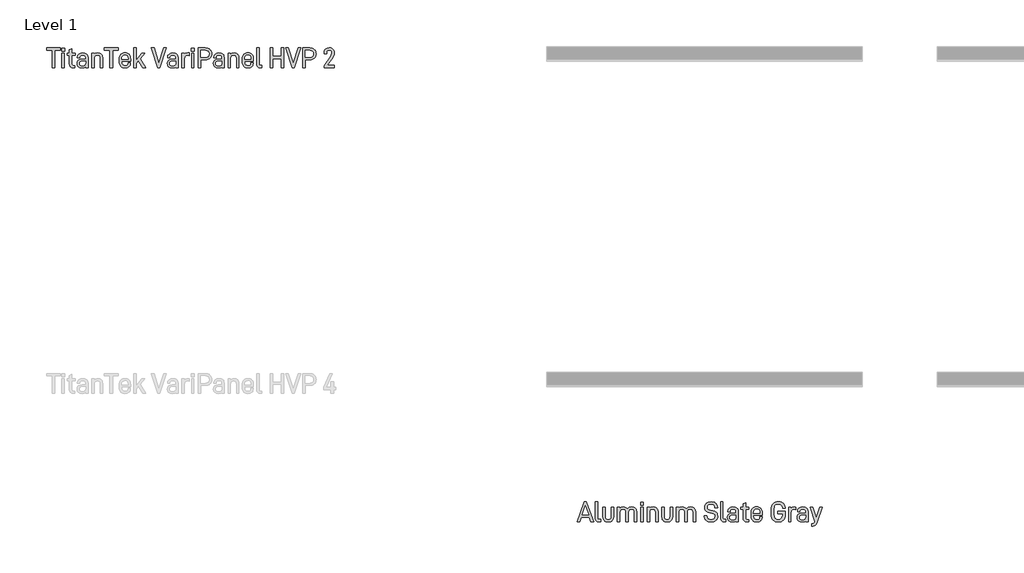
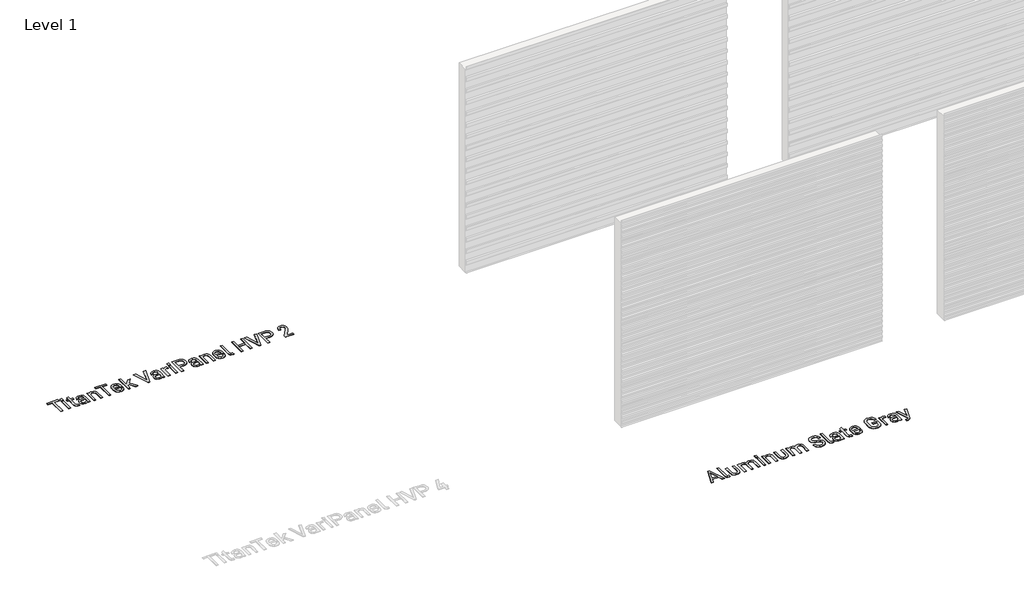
# One storey, part 3 of 33: 2 proxies.
"""IFC4 building model written with IfcOpenShell, lengths in millimetres."""

import ifcopenshell
import ifcopenshell.guid

model = None  # the IFC model being written
_history = None  # IfcOwnerHistory: only IFC2X3 demands one
_inside = {}  # id of a spatial element -> (the spatial element, [elements in it])
_under = {}  # id of a project, library or spatial element -> (it, [spatial elements below it])
_declared = {}  # id of a project -> (the project, [libraries it declares])
_typed = {}  # id of a type object -> (the type object, [elements of that type])
_made_of = {}  # id of a material, layer set ... -> (it, [elements and type objects made of it])


def new_model(schema):
    """Start an empty IFC model of exactly this schema.

    Asked for "IFC4X3", IfcOpenShell would pick the latest addendum, in which some entities
    have other attributes; the version numbers below select the first issue.
    IFC2X3 requires an IfcOwnerHistory on every rooted entity: one is made here for all.
    """
    global model, _history
    if schema == "IFC4X3":
        model = ifcopenshell.file(schema_version=(4, 3, 0, 0))
    else:
        model = ifcopenshell.file(schema=schema)
    _inside.clear()
    _under.clear()
    _declared.clear()
    _typed.clear()
    _made_of.clear()
    _history = None
    if model.schema == "IFC2X3":
        org = make("IfcOrganization", Name="unknown")
        user = make(
            "IfcPersonAndOrganization",
            ThePerson=make("IfcPerson", FamilyName="unknown"),
            TheOrganization=org,
        )
        app = make(
            "IfcApplication",
            ApplicationDeveloper=org,
            Version="unknown",
            ApplicationFullName="unknown",
            ApplicationIdentifier="unknown",
        )
        _history = make(
            "IfcOwnerHistory",
            OwningUser=user,
            OwningApplication=app,
            ChangeAction="ADDED",
            CreationDate=0,
        )
    return model


def make(cls, **values):
    """One entity of the class cls with the attributes given. An attribute that is None is left unset."""
    return model.create_entity(
        cls, **{name: value for name, value in values.items() if value is not None}
    )


def rooted(cls, **values):
    """An entity with a GlobalId (a new one), such as an element, a storey or a relation."""
    return make(cls, GlobalId=ifcopenshell.guid.new(), OwnerHistory=_history, **values)


def si_unit(unit_type, name, prefix=None):
    """IfcSIUnit, for example si_unit("LENGTHUNIT", "METRE", prefix="MILLI")."""
    return make("IfcSIUnit", UnitType=unit_type, Prefix=prefix, Name=name)


def assignment(units):
    """IfcUnitAssignment: the units of a project."""
    return None if units is None else make("IfcUnitAssignment", Units=units)


def point(xyz):
    """IfcCartesianPoint."""
    return None if xyz is None else make("IfcCartesianPoint", Coordinates=xyz)


def direction(xyz):
    """IfcDirection."""
    return None if xyz is None else make("IfcDirection", DirectionRatios=xyz)


def frame(location, z_axis=None, x_axis=None):
    """IfcAxis2Placement3D, a coordinate frame: its origin and axes. An axis left out is left unset."""
    return make(
        "IfcAxis2Placement3D",
        Location=point(location),
        Axis=direction(z_axis),
        RefDirection=direction(x_axis),
    )


def origin():
    """The frame at (0, 0, 0) with its axes left unset."""
    return frame((0.0, 0.0, 0.0))


def origin_with_axes():
    """The frame at (0, 0, 0) with the z axis (0, 0, 1) and the x axis (1, 0, 0) written out."""
    return frame((0.0, 0.0, 0.0), z_axis=(0.0, 0.0, 1.0), x_axis=(1.0, 0.0, 0.0))


def place(relative_to, where):
    """IfcLocalPlacement: puts the frame where relative to a parent placement (None: the world)."""
    return make(
        "IfcLocalPlacement", PlacementRelTo=relative_to, RelativePlacement=where
    )


def context(
    kind, dimensions, precision=None, world=None, true_north=None, identifier=None
):
    """IfcGeometricRepresentationContext, for example the 3D "Model" context."""
    return make(
        "IfcGeometricRepresentationContext",
        ContextIdentifier=identifier,
        ContextType=kind,
        CoordinateSpaceDimension=dimensions,
        Precision=precision,
        WorldCoordinateSystem=world,
        TrueNorth=true_north,
    )


def project(units=None, contexts=None):
    """IfcProject with its units and contexts."""
    return rooted(
        "IfcProject",
        Name="project",
        RepresentationContexts=contexts,
        UnitsInContext=assignment(units),
    )


def spatial(cls, under=None, at=None, **own):
    """A site, building, storey or space (cls), placed at a placement, below another one or the project."""
    s = rooted(cls, ObjectPlacement=at, **own)
    if under is not None:
        _under.setdefault(under.id(), (under, []))[1].append(s)
    return s


def polyline(points):
    """IfcPolyline through the points."""
    return make("IfcPolyline", Points=[point(p) for p in points])


def outline(outer, holes=None, kind="AREA"):
    """IfcArbitraryClosedProfileDef: a profile drawn as a closed curve; with holes, ...WithVoids."""
    if holes is None:
        return make("IfcArbitraryClosedProfileDef", ProfileType=kind, OuterCurve=outer)
    return make(
        "IfcArbitraryProfileDefWithVoids",
        ProfileType=kind,
        OuterCurve=outer,
        InnerCurves=holes,
    )


def extrude(swept, where, along, depth):
    """IfcExtrudedAreaSolid: the profile swept, set in the frame where, extruded along a direction by depth."""
    return make(
        "IfcExtrudedAreaSolid",
        SweptArea=swept,
        Position=where,
        ExtrudedDirection=direction(along),
        Depth=depth,
    )


def shape(context_of_items, identifier, shape_type, items):
    """IfcShapeRepresentation: the items that make up one representation, for example the "Body"."""
    return make(
        "IfcShapeRepresentation",
        ContextOfItems=context_of_items,
        RepresentationIdentifier=identifier,
        RepresentationType=shape_type,
        Items=items,
    )


def made_of(thing, what):
    """Note that an element or type object is made of a material, layer set ...; save() writes the relation."""
    if what is not None:
        _made_of.setdefault(what.id(), (what, []))[1].append(thing)
    return thing


def element(
    cls,
    number,
    at=None,
    inside=None,
    cuts=None,
    type_object=None,
    material=None,
    context=None,
    identifier="Body",
    shape_type=None,
    held_by="IfcProductDefinitionShape",
    body=None,
    shapes=None,
    **own,
):
    """One element of the class cls, such as IfcWall. Its Tag is "e" and its number.

    at: its placement. inside: the storey or other place that contains it. cuts: it is an
    opening in that element (IfcRelVoidsElement). A single representation is given by context,
    identifier, shape_type and body (its items); several are given by shapes. held_by: the class
    of the entity that holds the representations. save() writes the other relations.
    """
    e = rooted(cls, Tag="e%d" % number, ObjectPlacement=at, **own)
    if body is not None:
        shapes = [shape(context, identifier, shape_type, body)]
    if shapes is not None:
        e.Representation = make(held_by, Representations=shapes)
    if inside is not None:
        _inside.setdefault(inside.id(), (inside, []))[1].append(e)
    if cuts is not None:
        rooted(
            "IfcRelVoidsElement", RelatingBuildingElement=cuts, RelatedOpeningElement=e
        )
    if type_object is not None:
        _typed.setdefault(type_object.id(), (type_object, []))[1].append(e)
    return made_of(e, material)


def aggregate(whole, parts):
    """IfcRelAggregates: a whole, such as a stair, and the parts it consists of."""
    return rooted("IfcRelAggregates", RelatingObject=whole, RelatedObjects=parts)


def save(model, path):
    """Write the relations noted so far, then the file.

    IfcRelAggregates (storeys below a building ...), IfcRelContainedInSpatialStructure (elements
    in a storey), IfcRelDefinesByType, IfcRelAssociatesMaterial and IfcRelDeclares: one each for
    every whole, place, type object, material and project.
    """
    for whole, parts in _under.values():
        aggregate(whole, parts)
    for where, things in _inside.values():
        rooted(
            "IfcRelContainedInSpatialStructure",
            RelatedElements=things,
            RelatingStructure=where,
        )
    for kind, things in _typed.values():
        rooted("IfcRelDefinesByType", RelatedObjects=things, RelatingType=kind)
    for what, things in _made_of.values():
        rooted("IfcRelAssociatesMaterial", RelatedObjects=things, RelatingMaterial=what)
    for by, libraries in _declared.values():
        rooted("IfcRelDeclares", RelatingContext=by, RelatedDefinitions=libraries)
    model.write(path)


model = new_model("IFC4")

# Units and contexts
model_context = context("Model", 3, world=origin())
ifc_project = project(units=[si_unit("LENGTHUNIT", "METRE", prefix="MILLI")], contexts=[model_context])

# Site, building, storey
site = spatial("IfcSite", under=ifc_project)
building = spatial("IfcBuilding", under=site)
storey = spatial("IfcBuildingStorey", under=building, Name="Level 1", Elevation=0.0)

# Proxies
placement = place(None, origin())
element("IfcBuildingElementProxy", 1, Name="600mm Arial 2", ObjectType="600mm Arial 2", at=placement, inside=storey, context=model_context, shape_type="SweptSolid", body=[
    extrude(outline(polyline([(-9914.9924556, -12779.5871657), (-9914.9924556, -13047.0126498), (-9954.4439015, -13047.0126498), (-9954.4439015, -12779.5871657), (-10038.8787304, -12779.5871657), (-10038.8787304, -12742.6833224), (-9830.5576267, -12742.6833224), (-9830.5576267, -12779.5871657), (-9914.9924556, -12779.5871657)])), origin_with_axes(), (0.0, 0.0, 1.0), 5.0),
    extrude(outline(polyline([(-9763.1553408, -12746.9778525), (-9763.1553408, -12794.1448949), (-9802.6067867, -12794.1448949), (-9802.6067867, -12746.9778525), (-9763.1553408, -12746.9778525)])), origin_with_axes(), (0.0, 0.0, 1.0), 5.0),
    extrude(outline(polyline([(-9764.0288046, -12821.1494824), (-9764.0288046, -13047.0126498), (-9801.733323, -13047.0126498), (-9801.733323, -12821.1494824), (-9764.0288046, -12821.1494824)])), origin_with_axes(), (0.0, 0.0, 1.0), 5.0),
    extrude(outline(polyline([(-9648.294858, -12987.398749), (-9646.8208879, -12998.4808203), (-9642.3989777, -13006.3965855), (-9635.0291273, -13011.1460446), (-9624.7113368, -13012.7291977), (-9603.2386864, -13012.7291977), (-9603.2386864, -13047.0126498), (-9629.3698101, -13047.0126498), (-9653.1535001, -13043.0456686), (-9671.3688587, -13031.144725), (-9682.6692959, -13012.6018175), (-9686.4361083, -12988.7089446), (-9686.4361083, -12852.8853319), (-9720.2828285, -12852.8853319), (-9720.2828285, -12821.1494824), (-9686.4361083, -12821.1494824), (-9686.4361083, -12773.1089763), (-9648.294858, -12755.1301808), (-9648.294858, -12821.1494824), (-9599.3808881, -12821.1494824), (-9599.3808881, -12852.8853319), (-9648.294858, -12852.8853319), (-9648.294858, -12987.398749)])), origin_with_axes(), (0.0, 0.0, 1.0), 5.0),
    extrude(outline(polyline([(-9422.8684225, -12837.8908709), (-9413.2830677, -12848.6590411), (-9406.4363858, -12861.7473495), (-9400.9590402, -12894.8843804), (-9400.9590402, -13047.0126498), (-9438.2996154, -13047.0126498), (-9438.2996154, -13030.7079931), (-9456.7151427, -13043.1548515), (-9473.7476858, -13047.9589022), (-9493.9829293, -13049.5602524), (-9526.0281305, -13045.2839194), (-9550.1029751, -13032.4549206), (-9565.2248162, -13010.6729184), (-9570.2654299, -12981.4300801), (-9565.1338304, -12953.7885919), (-9549.7390318, -12932.5888988), (-9525.063681, -12919.3777597), (-9493.1094655, -12914.9740466), (-9438.7363472, -12914.9740466), (-9438.7363472, -12894.4476485), (-9441.6296959, -12875.558995), (-9450.3097419, -12861.8383353), (-9464.2305704, -12853.8133871), (-9483.7197302, -12851.1384044), (-9502.2262434, -12853.3948524), (-9515.819523, -12860.1641964), (-9524.1720201, -12870.5183813), (-9526.9561857, -12884.5483927), (-9526.9561857, -12890.1531184), (-9563.8600291, -12890.1531184), (-9563.8600291, -12883.7477176), (-9558.4008807, -12856.7067358), (-9542.0234354, -12835.7072115), (-9516.8203668, -12822.5506638), (-9484.1564621, -12818.1651479), (-9448.6719974, -12823.0965787), (-9434.5600987, -12829.2608671), (-9422.8684225, -12837.8908709)]), holes=[polyline([(-9450.6736851, -13005.4503331), (-9441.7206817, -12990.5468579), (-9438.7363472, -12968.9832216), (-9438.7363472, -12945.0357572), (-9488.8149354, -12945.0357572), (-9507.9538, -12947.2831067), (-9521.6244175, -12954.025155), (-9529.826788, -12965.2619021), (-9532.5609115, -12980.9933482), (-9529.8540837, -12996.9477094), (-9521.7336004, -13008.3436818), (-9508.1994616, -13015.1812652), (-9489.2516673, -13017.4604596), (-9466.104878, -13014.457928), (-9450.6736851, -13005.4503331)])]), origin_with_axes(), (0.0, 0.0, 1.0), 5.0),
    extrude(outline(polyline([(-9306.6977441, -12821.1494824), (-9306.6977441, -12839.5650097), (-9288.2822167, -12826.3174762), (-9271.1222935, -12820.5307789), (-9252.2518372, -12818.6018798), (-9219.9154813, -12824.0610282), (-9206.7907787, -12830.8849637), (-9195.6950595, -12840.4384735), (-9187.0650557, -12852.0209667), (-9180.9007673, -12865.8053165), (-9175.9693365, -12899.9795856), (-9175.9693365, -13047.0126498), (-9213.673855, -13047.0126498), (-9213.673855, -12904.2741157), (-9216.6763866, -12881.8916072), (-9225.6839815, -12866.1328654), (-9240.3781893, -12856.5247642), (-9259.567096, -12853.3220637), (-9278.7378056, -12856.5247642), (-9293.3774219, -12866.1328654), (-9303.0401146, -12882.546705), (-9306.2610122, -12904.2741157), (-9306.2610122, -13047.0126498), (-9343.9655306, -13047.0126498), (-9343.9655306, -12821.1494824), (-9306.6977441, -12821.1494824)])), origin_with_axes(), (0.0, 0.0, 1.0), 5.0),
    extrude(outline(polyline([(-9025.2240514, -12779.5871657), (-9025.2240514, -13047.0126498), (-9064.6754974, -13047.0126498), (-9064.6754974, -12779.5871657), (-9149.1103263, -12779.5871657), (-9149.1103263, -12742.6833224), (-8940.7892225, -12742.6833224), (-8940.7892225, -12779.5871657), (-9025.2240514, -12779.5871657)])), origin_with_axes(), (0.0, 0.0, 1.0), 5.0),
    extrude(outline(polyline([(-8884.5235994, -12952.7513537), (-8881.1025331, -12982.1670651), (-8870.8393341, -13001.1194087), (-8854.3527058, -13011.4099035), (-8832.2613519, -13014.8400684), (-8812.990558, -13012.2742686), (-8798.8513635, -13004.5768694), (-8790.1713175, -12992.8033059), (-8787.2779689, -12977.13555), (-8787.2779689, -12971.6036129), (-8750.3741256, -12971.6036129), (-8750.3741256, -12978.0090137), (-8756.0516399, -13007.1608663), (-8763.1485329, -13019.471246), (-8773.084183, -13030.2712613), (-8799.7976159, -13044.7380046), (-8834.3722226, -13049.5602524), (-8853.3222916, -13048.0612612), (-8870.2843206, -13043.5642877), (-8885.2583098, -13036.0693318), (-8898.2442591, -13025.5763936), (-8908.7371973, -13011.9762901), (-8916.2321532, -12995.1598383), (-8920.7291267, -12975.1270383), (-8922.2281179, -12951.8778899), (-8922.2281179, -12914.1733715), (-8920.7314014, -12891.4678633), (-8916.2412518, -12871.8285769), (-8908.7576691, -12855.2555121), (-8898.2806535, -12841.7486691), (-8885.4971476, -12831.4308786), (-8870.7301511, -12824.0610282), (-8853.979664, -12819.639118), (-8835.2456864, -12818.1651479), (-8816.8438069, -12819.639118), (-8800.2161506, -12824.0610282), (-8785.3627176, -12831.4308786), (-8772.2835079, -12841.7486691), (-8761.9657174, -12855.0917377), (-8754.595867, -12871.610211), (-8750.1739568, -12891.3040889), (-8748.6999867, -12914.1733715), (-8748.6999867, -12944.1622935), (-8884.5235994, -12944.1622935), (-8884.5235994, -12952.7513537)]), holes=[polyline([(-8871.2760659, -12866.5695973), (-8881.2117161, -12884.69397), (-8884.5235994, -12913.2999077), (-8786.4045051, -12913.7366396), (-8786.4045051, -12910.3155733), (-8789.6254027, -12883.0744226), (-8799.2880954, -12865.6961335), (-8814.9012599, -12856.4155812), (-8835.2456864, -12853.3220637), (-8855.60831, -12856.6339471), (-8871.2760659, -12866.5695973)])]), origin_with_axes(), (0.0, 0.0, 1.0), 5.0),
    extrude(outline(polyline([(-8663.391694, -12979.6831526), (-8663.391694, -13047.0126498), (-8701.0962125, -13047.0126498), (-8701.0962125, -12742.6833224), (-8663.391694, -12742.6833224), (-8663.391694, -12929.1678325), (-8575.0990669, -12821.1494824), (-8528.3687564, -12821.1494824), (-8602.5403863, -12908.1319139), (-8517.6688255, -13047.0126498), (-8563.5256722, -13047.0126498), (-8627.7980463, -12937.3201608), (-8663.391694, -12979.6831526)])), origin_with_axes(), (0.0, 0.0, 1.0), 5.0),
    extrude(outline(polyline([(-8240.5624516, -12742.6833224), (-8199.0001349, -12742.6833224), (-8298.4294248, -13047.0126498), (-8330.1652743, -13047.0126498), (-8429.1578324, -12742.6833224), (-8387.5955157, -12742.6833224), (-8313.8606177, -12977.13555), (-8240.5624516, -12742.6833224)])), origin_with_axes(), (0.0, 0.0, 1.0), 5.0),
    extrude(outline(polyline([(-8039.3018464, -12837.8908709), (-8029.7164916, -12848.6590411), (-8022.8698097, -12861.7473495), (-8017.3924641, -12894.8843804), (-8017.3924641, -13047.0126498), (-8054.7330393, -13047.0126498), (-8054.7330393, -13030.7079931), (-8073.1485666, -13043.1548515), (-8090.1811097, -13047.9589022), (-8110.4163532, -13049.5602524), (-8142.4615544, -13045.2839194), (-8166.536399, -13032.4549206), (-8181.6582401, -13010.6729184), (-8186.6988538, -12981.4300801), (-8181.5672543, -12953.7885919), (-8166.1724557, -12932.5888988), (-8141.4971049, -12919.3777597), (-8109.5428894, -12914.9740466), (-8055.1697712, -12914.9740466), (-8055.1697712, -12894.4476485), (-8058.0631198, -12875.558995), (-8066.7431658, -12861.8383353), (-8080.6639943, -12853.8133871), (-8100.1531542, -12851.1384044), (-8118.6596673, -12853.3948524), (-8132.2529469, -12860.1641964), (-8140.605444, -12870.5183813), (-8143.3896097, -12884.5483927), (-8143.3896097, -12890.1531184), (-8180.293453, -12890.1531184), (-8180.293453, -12883.7477176), (-8174.8343046, -12856.7067358), (-8158.4568593, -12835.7072115), (-8133.2537908, -12822.5506638), (-8100.589886, -12818.1651479), (-8065.1054213, -12823.0965787), (-8050.9935226, -12829.2608671), (-8039.3018464, -12837.8908709)]), holes=[polyline([(-8067.107109, -13005.4503331), (-8058.1541056, -12990.5468579), (-8055.1697712, -12968.9832216), (-8055.1697712, -12945.0357572), (-8105.2483594, -12945.0357572), (-8124.3872239, -12947.2831067), (-8138.0578414, -12954.025155), (-8146.2602119, -12965.2619021), (-8148.9943354, -12980.9933482), (-8146.2875076, -12996.9477094), (-8138.1670243, -13008.3436818), (-8124.6328855, -13015.1812652), (-8105.6850912, -13017.4604596), (-8082.5383019, -13014.457928), (-8067.107109, -13005.4503331)])]), origin_with_axes(), (0.0, 0.0, 1.0), 5.0),
    extrude(outline(polyline([(-7870.4321886, -12818.1651479), (-7850.2697337, -12820.2760186), (-7850.2697337, -12859.2907327), (-7876.8375894, -12853.686007), (-7895.1712295, -12857.2253549), (-7909.8472402, -12867.8433985), (-7919.4826371, -12884.2481396), (-7922.6944361, -12905.1475794), (-7922.6944361, -13047.0126498), (-7960.3989546, -13047.0126498), (-7960.3989546, -12821.1494824), (-7923.131168, -12821.1494824), (-7923.131168, -12840.8752053), (-7905.5891044, -12826.6814194), (-7889.4846166, -12820.2942158), (-7870.4321886, -12818.1651479)])), origin_with_axes(), (0.0, 0.0, 1.0), 5.0),
    extrude(outline(polyline([(-7773.9872331, -12746.9778525), (-7773.9872331, -12794.1448949), (-7813.438679, -12794.1448949), (-7813.438679, -12746.9778525), (-7773.9872331, -12746.9778525)])), origin_with_axes(), (0.0, 0.0, 1.0), 5.0),
    extrude(outline(polyline([(-7774.8606969, -12821.1494824), (-7774.8606969, -13047.0126498), (-7812.5652153, -13047.0126498), (-7812.5652153, -12821.1494824), (-7774.8606969, -12821.1494824)])), origin_with_axes(), (0.0, 0.0, 1.0), 5.0),
    extrude(outline(polyline([(-7529.6357497, -12766.7035755), (-7518.2033831, -12780.1603763), (-7510.0374069, -12796.073794), (-7505.1378212, -12814.4438284), (-7503.504626, -12835.2704796), (-7505.1651169, -12854.955259), (-7510.1465899, -12872.4472804), (-7518.4490448, -12887.7465438), (-7530.0724816, -12900.8530493), (-7544.1297888, -12911.3619101), (-7560.6073184, -12918.8682391), (-7579.5050706, -12923.3720366), (-7600.8230452, -12924.8733024), (-7671.5008201, -12924.8733024), (-7671.5008201, -13047.0126498), (-7711.3889979, -13047.0126498), (-7711.3889979, -12742.6833224), (-7600.8230452, -12742.6833224), (-7579.6415493, -12744.1845882), (-7560.7165014, -12748.6883857), (-7544.0479016, -12756.1947147), (-7529.6357497, -12766.7035755)]), holes=[polyline([(-7558.3872648, -12874.7219256), (-7547.141419, -12858.4172689), (-7543.3928038, -12835.2704796), (-7547.250602, -12810.6497202), (-7558.8239966, -12793.2714311), (-7577.8946218, -12783.0082321), (-7603.3706478, -12779.5871657), (-7671.5008201, -12779.5871657), (-7671.5008201, -12887.9694591), (-7603.3706478, -12887.9694591), (-7577.130341, -12884.6575757), (-7558.3872648, -12874.7219256)])]), origin_with_axes(), (0.0, 0.0, 1.0), 5.0),
    extrude(outline(polyline([(-7331.2139018, -12837.8908709), (-7321.628547, -12848.6590411), (-7314.781865, -12861.7473495), (-7309.3045194, -12894.8843804), (-7309.3045194, -13047.0126498), (-7346.6450946, -13047.0126498), (-7346.6450946, -13030.7079931), (-7365.060622, -13043.1548515), (-7382.093165, -13047.9589022), (-7402.3284085, -13049.5602524), (-7434.3736098, -13045.2839194), (-7458.4484543, -13032.4549206), (-7473.5702954, -13010.6729184), (-7478.6109091, -12981.4300801), (-7473.4793096, -12953.7885919), (-7458.0845111, -12932.5888988), (-7433.4091602, -12919.3777597), (-7401.4549448, -12914.9740466), (-7347.0818265, -12914.9740466), (-7347.0818265, -12894.4476485), (-7349.9751752, -12875.558995), (-7358.6552212, -12861.8383353), (-7372.5760496, -12853.8133871), (-7392.0652095, -12851.1384044), (-7410.5717226, -12853.3948524), (-7424.1650022, -12860.1641964), (-7432.5174993, -12870.5183813), (-7435.301665, -12884.5483927), (-7435.301665, -12890.1531184), (-7472.2055083, -12890.1531184), (-7472.2055083, -12883.7477176), (-7466.7463599, -12856.7067358), (-7450.3689146, -12835.7072115), (-7425.1658461, -12822.5506638), (-7392.5019414, -12818.1651479), (-7357.0174766, -12823.0965787), (-7342.905578, -12829.2608671), (-7331.2139018, -12837.8908709)]), holes=[polyline([(-7359.0191644, -13005.4503331), (-7350.066161, -12990.5468579), (-7347.0818265, -12968.9832216), (-7347.0818265, -12945.0357572), (-7397.1604147, -12945.0357572), (-7416.2992792, -12947.2831067), (-7429.9698967, -12954.025155), (-7438.1722672, -12965.2619021), (-7440.9063907, -12980.9933482), (-7438.199563, -12996.9477094), (-7430.0790797, -13008.3436818), (-7416.5449409, -13015.1812652), (-7397.5971466, -13017.4604596), (-7374.4503573, -13014.457928), (-7359.0191644, -13005.4503331)])]), origin_with_axes(), (0.0, 0.0, 1.0), 5.0),
    extrude(outline(polyline([(-7215.0432233, -12821.1494824), (-7215.0432233, -12839.5650097), (-7196.627696, -12826.3174762), (-7179.4677728, -12820.5307789), (-7160.5973164, -12818.6018798), (-7128.2609606, -12824.0610282), (-7115.1362579, -12830.8849637), (-7104.0405387, -12840.4384735), (-7095.410535, -12852.0209667), (-7089.2462465, -12865.8053165), (-7084.3148158, -12899.9795856), (-7084.3148158, -13047.0126498), (-7122.0193342, -13047.0126498), (-7122.0193342, -12904.2741157), (-7125.0218659, -12881.8916072), (-7134.0294607, -12866.1328654), (-7148.7236686, -12856.5247642), (-7167.9125753, -12853.3220637), (-7187.0832848, -12856.5247642), (-7201.7229012, -12866.1328654), (-7211.3855939, -12882.546705), (-7214.6064915, -12904.2741157), (-7214.6064915, -13047.0126498), (-7252.3110099, -13047.0126498), (-7252.3110099, -12821.1494824), (-7215.0432233, -12821.1494824)])), origin_with_axes(), (0.0, 0.0, 1.0), 5.0),
    extrude(outline(polyline([(-6997.8419048, -12952.7513537), (-6994.4208384, -12982.1670651), (-6984.1576394, -13001.1194087), (-6967.6710112, -13011.4099035), (-6945.5796572, -13014.8400684), (-6926.3088633, -13012.2742686), (-6912.1696689, -13004.5768694), (-6903.4896229, -12992.8033059), (-6900.5962742, -12977.13555), (-6900.5962742, -12971.6036129), (-6863.6924309, -12971.6036129), (-6863.6924309, -12978.0090137), (-6869.3699452, -13007.1608663), (-6876.4668382, -13019.471246), (-6886.4024883, -13030.2712613), (-6913.1159213, -13044.7380046), (-6947.6905279, -13049.5602524), (-6966.6405969, -13048.0612612), (-6983.602626, -13043.5642877), (-6998.5766152, -13036.0693318), (-7011.5625645, -13025.5763936), (-7022.0555027, -13011.9762901), (-7029.5504585, -12995.1598383), (-7034.047432, -12975.1270383), (-7035.5464232, -12951.8778899), (-7035.5464232, -12914.1733715), (-7034.0497067, -12891.4678633), (-7029.5595571, -12871.8285769), (-7022.0759745, -12855.2555121), (-7011.5989588, -12841.7486691), (-6998.8154529, -12831.4308786), (-6984.0484564, -12824.0610282), (-6967.2979694, -12819.639118), (-6948.5639917, -12818.1651479), (-6930.1621122, -12819.639118), (-6913.534456, -12824.0610282), (-6898.681023, -12831.4308786), (-6885.6018132, -12841.7486691), (-6875.2840227, -12855.0917377), (-6867.9141723, -12871.610211), (-6863.4922621, -12891.3040889), (-6862.018292, -12914.1733715), (-6862.018292, -12944.1622935), (-6997.8419048, -12944.1622935), (-6997.8419048, -12952.7513537)]), holes=[polyline([(-6984.5943713, -12866.5695973), (-6994.5300214, -12884.69397), (-6997.8419048, -12913.2999077), (-6899.7228105, -12913.7366396), (-6899.7228105, -12910.3155733), (-6902.943708, -12883.0744226), (-6912.6064007, -12865.6961335), (-6928.2195652, -12856.4155812), (-6948.5639917, -12853.3220637), (-6968.9266153, -12856.6339471), (-6984.5943713, -12866.5695973)])]), origin_with_axes(), (0.0, 0.0, 1.0), 5.0),
    extrude(outline(polyline([(-6799.4200568, -13031.144725), (-6810.6659025, -13011.637368), (-6814.4145178, -12985.7246101), (-6814.4145178, -12742.6833224), (-6776.7099994, -12742.6833224), (-6776.7099994, -12983.9776826), (-6775.3270151, -12997.3889906), (-6771.1780623, -13005.887065), (-6764.1903523, -13010.3635667), (-6753.5632101, -13011.8557339), (-6731.7266164, -13011.8557339), (-6731.7266164, -13047.0126498), (-6756.5475445, -13047.0126498), (-6781.4230642, -13043.0456686), (-6799.4200568, -13031.144725)])), origin_with_axes(), (0.0, 0.0, 1.0), 5.0),
    extrude(outline(polyline([(-6393.1138369, -13047.0126498), (-6432.9292261, -13047.0126498), (-6432.9292261, -12909.8788414), (-6562.7841699, -12909.8788414), (-6562.7841699, -13047.0126498), (-6602.6723477, -13047.0126498), (-6602.6723477, -12742.6833224), (-6562.7841699, -12742.6833224), (-6562.7841699, -12872.9749981), (-6432.9292261, -12872.9749981), (-6432.9292261, -12742.6833224), (-6393.1138369, -12742.6833224), (-6393.1138369, -13047.0126498)])), origin_with_axes(), (0.0, 0.0, 1.0), 5.0),
    extrude(outline(polyline([(-6176.8587707, -12742.6833224), (-6135.2964541, -12742.6833224), (-6234.725744, -13047.0126498), (-6266.4615935, -13047.0126498), (-6365.4541516, -12742.6833224), (-6323.8918349, -12742.6833224), (-6250.1569369, -12977.13555), (-6176.8587707, -12742.6833224)])), origin_with_axes(), (0.0, 0.0, 1.0), 5.0),
    extrude(outline(polyline([(-5927.1209276, -12766.7035755), (-5915.6885609, -12780.1603763), (-5907.5225848, -12796.073794), (-5902.6229991, -12814.4438284), (-5900.9898038, -12835.2704796), (-5902.6502948, -12854.955259), (-5907.6317677, -12872.4472804), (-5915.9342226, -12887.7465438), (-5927.5576595, -12900.8530493), (-5941.6149667, -12911.3619101), (-5958.0924963, -12918.8682391), (-5976.9902484, -12923.3720366), (-5998.308223, -12924.8733024), (-6068.9859979, -12924.8733024), (-6068.9859979, -13047.0126498), (-6108.8741757, -13047.0126498), (-6108.8741757, -12742.6833224), (-5998.308223, -12742.6833224), (-5977.1267271, -12744.1845882), (-5958.2016793, -12748.6883857), (-5941.5330794, -12756.1947147), (-5927.1209276, -12766.7035755)]), holes=[polyline([(-5955.8724426, -12874.7219256), (-5944.6265969, -12858.4172689), (-5940.8779816, -12835.2704796), (-5944.7357798, -12810.6497202), (-5956.3091745, -12793.2714311), (-5975.3797996, -12783.0082321), (-6000.8558256, -12779.5871657), (-6068.9859979, -12779.5871657), (-6068.9859979, -12887.9694591), (-6000.8558256, -12887.9694591), (-5974.6155189, -12884.6575757), (-5955.8724426, -12874.7219256)])]), origin_with_axes(), (0.0, 0.0, 1.0), 5.0),
    extrude(outline(polyline([(-5677.5286617, -12872.5382662), (-5663.9899737, -12846.7528885), (-5659.4770776, -12823.2603531), (-5659.4770776, -12816.8549523), (-5662.1702575, -12799.0581284), (-5670.2497972, -12785.9925665), (-5683.0969931, -12777.6400695), (-5699.3652554, -12774.8559038), (-5715.7427007, -12777.5308865), (-5728.0439818, -12785.5558347), (-5735.7959726, -12799.3856773), (-5738.3799695, -12818.6018798), (-5738.3799695, -12830.5392177), (-5777.7586268, -12830.5392177), (-5777.7586268, -12816.8549523), (-5772.4086613, -12785.2464829), (-5756.358765, -12759.8614428), (-5730.7553589, -12743.8115464), (-5698.4917917, -12738.4615809), (-5676.3094519, -12741.0273807), (-5656.929475, -12748.72478), (-5640.9705645, -12760.6075264), (-5629.0514238, -12776.6028313), (-5621.6815734, -12795.0001614), (-5619.2249566, -12815.9814885), (-5619.2249566, -12823.2603531), (-5620.9354898, -12841.9124435), (-5626.0670893, -12859.2907327), (-5645.7928122, -12894.0109167), (-5726.8065748, -13010.5455383), (-5619.2249566, -13010.5455383), (-5619.2249566, -13047.0126498), (-5777.7586268, -13047.0126498), (-5777.7586268, -13016.150264), (-5677.5286617, -12872.5382662)])), origin_with_axes(), (0.0, 0.0, 1.0), 5.0),
])
element("IfcBuildingElementProxy", 2, Name="600mm Arial 2", ObjectType="600mm Arial 2", at=placement, inside=storey, context=model_context, shape_type="SweptSolid", body=[
    extrude(outline(polyline([(-1825.1484985, -19946.6324484), (-1849.9694267, -20017.8197439), (-1891.9684752, -20017.8197439), (-1781.4025225, -19713.4904165), (-1749.3027298, -19713.4904165), (-1638.6639884, -20017.8197439), (-1680.663037, -20017.8197439), (-1705.5567538, -19946.6324484), (-1825.1484985, -19946.6324484)]), holes=[polyline([(-1765.5345978, -19774.3417242), (-1813.138372, -19911.5483212), (-1717.5668803, -19911.5483212), (-1765.5345978, -19774.3417242)])]), origin_with_axes(), (0.0, 0.0, 1.0), 5.0),
    extrude(outline(polyline([(-1599.2125425, -20001.9518191), (-1610.4583882, -19982.4444621), (-1614.2070035, -19956.5317042), (-1614.2070035, -19713.4904165), (-1576.5024851, -19713.4904165), (-1576.5024851, -19954.7847767), (-1575.1195008, -19968.1960847), (-1570.970548, -19976.6941591), (-1563.982838, -19981.1706608), (-1553.3556958, -19982.662828), (-1531.5191021, -19982.662828), (-1531.5191021, -20017.8197439), (-1556.3400302, -20017.8197439), (-1581.2155499, -20013.8527627), (-1599.2125425, -20001.9518191)])), origin_with_axes(), (0.0, 0.0, 1.0), 5.0),
    extrude(outline(polyline([(-1476.7820406, -19997.657289), (-1485.9534099, -19985.3150643), (-1492.504388, -19970.5617157), (-1497.7451705, -19933.8216468), (-1497.7451705, -19791.9565765), (-1460.0406521, -19791.9565765), (-1460.0406521, -19929.9638486), (-1457.3656693, -19955.1305228), (-1449.3407212, -19972.399629), (-1435.3198083, -19982.3352791), (-1413.7834678, -19985.6471625), (-1392.2471272, -19982.4444621), (-1378.2262144, -19972.8363609), (-1370.1466747, -19955.4580717), (-1367.4534948, -19929.9638486), (-1367.4534948, -19791.9565765), (-1329.7489764, -19791.9565765), (-1329.7489764, -19933.8216468), (-1335.007956, -19970.5617157), (-1341.5816806, -19985.3150643), (-1350.784895, -19997.657289), (-1362.772275, -20007.5929391), (-1377.3345535, -20014.6898321), (-1394.4717302, -20018.9479679), (-1414.1838053, -20020.3673465), (-1433.5182893, -20018.9479679), (-1450.3961565, -20014.6898321), (-1464.8174069, -20007.5929391), (-1476.7820406, -19997.657289)])), origin_with_axes(), (0.0, 0.0, 1.0), 5.0),
    extrude(outline(polyline([(-1236.8706646, -19791.9565765), (-1236.8706646, -19810.8088357), (-1218.4551372, -19797.4885135), (-1201.51358, -19791.4288588), (-1182.4247576, -19789.4089739), (-1160.7883327, -19791.8655907), (-1142.1726366, -19799.235441), (-1130.0533271, -19808.6615706), (-1119.4625792, -19821.5087666), (-1107.0111715, -19807.4651073), (-1091.930274, -19797.4339221), (-1074.2198866, -19791.4152109), (-1053.8800095, -19789.4089739), (-1021.3980763, -19794.8681223), (-1008.1459936, -19801.6920578), (-996.8864999, -19811.2455676), (-987.8743557, -19822.8280608), (-981.4371099, -19836.6124106), (-976.2873132, -19870.7866797), (-976.2873132, -20017.8197439), (-1013.9918317, -20017.8197439), (-1013.9918317, -19875.0812098), (-1016.9943633, -19852.6987012), (-1026.0019582, -19836.9399595), (-1040.1411526, -19827.3318582), (-1059.4119465, -19824.1291578), (-1079.1558667, -19827.3318582), (-1093.6953986, -19836.9399595), (-1103.0305424, -19853.0444473), (-1106.142257, -19873.8438028), (-1106.142257, -20017.8197439), (-1144.2835073, -20017.8197439), (-1144.2835073, -19875.0812098), (-1147.286039, -19852.6987012), (-1156.2936339, -19836.9399595), (-1170.4328283, -19827.3318582), (-1189.7036222, -19824.1291578), (-1208.9016275, -19827.3318582), (-1223.5503424, -19836.9399595), (-1233.2130351, -19853.3537991), (-1236.4339327, -19875.0812098), (-1236.4339327, -20017.8197439), (-1274.1384511, -20017.8197439), (-1274.1384511, -19791.9565765), (-1236.8706646, -19791.9565765)])), origin_with_axes(), (0.0, 0.0, 1.0), 5.0),
    extrude(outline(polyline([(-878.968894, -19791.9565765), (-878.968894, -20017.8197439), (-916.6734124, -20017.8197439), (-916.6734124, -19791.9565765), (-878.968894, -19791.9565765)])), origin_with_axes(), (0.0, 0.0, 1.0), 5.0),
    extrude(outline(polyline([(-878.0954303, -19717.7849466), (-878.0954303, -19764.9519889), (-917.5468762, -19764.9519889), (-917.5468762, -19717.7849466), (-878.0954303, -19717.7849466)])), origin_with_axes(), (0.0, 0.0, 1.0), 5.0),
    extrude(outline(polyline([(-780.3402792, -19791.9565765), (-780.3402792, -19810.3721038), (-761.9247518, -19797.1245703), (-744.7648286, -19791.337873), (-725.8943723, -19789.4089739), (-693.5580164, -19794.8681223), (-680.4333138, -19801.6920578), (-669.3375946, -19811.2455676), (-660.7075908, -19822.8280608), (-654.5433024, -19836.6124106), (-649.6118716, -19870.7866797), (-649.6118716, -20017.8197439), (-687.3163901, -20017.8197439), (-687.3163901, -19875.0812098), (-690.3189217, -19852.6987012), (-699.3265166, -19836.9399595), (-714.0207244, -19827.3318582), (-733.2096311, -19824.1291578), (-752.3803407, -19827.3318582), (-767.019957, -19836.9399595), (-776.6826497, -19853.3537991), (-779.9035473, -19875.0812098), (-779.9035473, -20017.8197439), (-817.6080658, -20017.8197439), (-817.6080658, -19791.9565765), (-780.3402792, -19791.9565765)])), origin_with_axes(), (0.0, 0.0, 1.0), 5.0),
    extrude(outline(polyline([(-573.0382164, -19997.657289), (-582.2095858, -19985.3150643), (-588.7605639, -19970.5617157), (-594.0013464, -19933.8216468), (-594.0013464, -19791.9565765), (-556.2968279, -19791.9565765), (-556.2968279, -19929.9638486), (-553.6218452, -19955.1305228), (-545.596897, -19972.399629), (-531.5759842, -19982.3352791), (-510.0396437, -19985.6471625), (-488.5033031, -19982.4444621), (-474.4823903, -19972.8363609), (-466.4028506, -19955.4580717), (-463.7096707, -19929.9638486), (-463.7096707, -19791.9565765), (-426.0051523, -19791.9565765), (-426.0051523, -19933.8216468), (-431.2641319, -19970.5617157), (-437.8378565, -19985.3150643), (-447.0410709, -19997.657289), (-459.0284509, -20007.5929391), (-473.5907294, -20014.6898321), (-490.7279061, -20018.9479679), (-510.4399812, -20020.3673465), (-529.7744652, -20018.9479679), (-546.6523324, -20014.6898321), (-561.0735828, -20007.5929391), (-573.0382164, -19997.657289)])), origin_with_axes(), (0.0, 0.0, 1.0), 5.0),
    extrude(outline(polyline([(-333.1268405, -19791.9565765), (-333.1268405, -19810.8088357), (-314.7113131, -19797.4885135), (-297.7697558, -19791.4288588), (-278.6809335, -19789.4089739), (-257.0445086, -19791.8655907), (-238.4288125, -19799.235441), (-226.309503, -19808.6615706), (-215.7187551, -19821.5087666), (-203.2673474, -19807.4651073), (-188.1864498, -19797.4339221), (-170.4760625, -19791.4152109), (-150.1361853, -19789.4089739), (-117.6542522, -19794.8681223), (-104.4021694, -19801.6920578), (-93.1426758, -19811.2455676), (-84.1305316, -19822.8280608), (-77.6932858, -19836.6124106), (-72.5434891, -19870.7866797), (-72.5434891, -20017.8197439), (-110.2480075, -20017.8197439), (-110.2480075, -19875.0812098), (-113.2505392, -19852.6987012), (-122.2581341, -19836.9399595), (-136.3973285, -19827.3318582), (-155.6681224, -19824.1291578), (-175.4120425, -19827.3318582), (-189.9515745, -19836.9399595), (-199.2867183, -19853.0444473), (-202.3984329, -19873.8438028), (-202.3984329, -20017.8197439), (-240.5396832, -20017.8197439), (-240.5396832, -19875.0812098), (-243.5422148, -19852.6987012), (-252.5498097, -19836.9399595), (-266.6890042, -19827.3318582), (-285.9597981, -19824.1291578), (-305.1578034, -19827.3318582), (-319.8065183, -19836.9399595), (-329.469211, -19853.3537991), (-332.6901086, -19875.0812098), (-332.6901086, -20017.8197439), (-370.394627, -20017.8197439), (-370.394627, -19791.9565765), (-333.1268405, -19791.9565765)])), origin_with_axes(), (0.0, 0.0, 1.0), 5.0),
    extrude(outline(polyline([(89.1928815, -19997.657289), (77.0053326, -19984.0139672), (67.8112168, -19967.4681982), (61.6105341, -19948.019982), (58.4032844, -19925.6693185), (97.7819417, -19925.6693185), (103.3821181, -19951.3682597), (116.3248491, -19969.7246463), (136.6101348, -19980.7384782), (164.2379751, -19984.4097555), (192.2798008, -19981.079675), (212.2056926, -19971.0894334), (224.1066361, -19955.2215086), (228.0736173, -19933.3849149), (224.9619027, -19913.7865721), (215.6267589, -19899.5381947), (199.3766938, -19889.7845162), (176.2481016, -19883.67027), (142.7653247, -19878.0655442), (109.992237, -19868.4392459), (85.3350833, -19852.3711523), (76.3547841, -19841.4937991), (69.9402847, -19828.5874624), (64.8086852, -19796.6878384), (66.5510634, -19777.2168757), (71.778198, -19760.002361), (80.490089, -19745.0442944), (92.6867365, -19732.3426757), (107.4218879, -19722.4070256), (124.2588115, -19715.3101326), (164.2379751, -19709.6326183), (201.3965787, -19715.0007809), (217.3281935, -19721.7109842), (231.4946837, -19731.1052687), (243.9324435, -19743.9615633), (253.3676717, -19759.8203894), (259.8003682, -19778.6817472), (263.2305332, -19800.5456367), (223.7790872, -19800.5456367), (218.9113466, -19776.343412), (207.292459, -19759.0561086), (188.9224246, -19748.6837266), (163.8012432, -19745.226266), (137.8884854, -19748.5563465), (119.2545921, -19758.5465881), (107.6811975, -19774.1597526), (103.8233992, -19794.5041791), (106.7167479, -19812.3010029), (115.3967939, -19825.3665648), (130.8279868, -19834.9018774), (153.1013123, -19841.2344896), (187.3847644, -19847.2031585), (221.4498506, -19857.1934001), (246.4891447, -19874.207746), (255.6923591, -19885.5218311), (262.2660836, -19898.8648997), (267.5250633, -19931.6379874), (265.7280936, -19951.6503157), (260.3371845, -19969.2515201), (251.3523361, -19984.4416005), (238.7735482, -19997.2205571), (223.3878483, -20007.3472775), (205.4727429, -20014.5806491), (185.028232, -20018.9206721), (162.0543157, -20020.3673465), (121.1288997, -20014.6898321), (104.0372159, -20007.5929391), (89.1928815, -19997.657289)])), origin_with_axes(), (0.0, 0.0, 1.0), 5.0),
    extrude(outline(polyline([(324.7369387, -20001.9518191), (313.491093, -19982.4444621), (309.7424777, -19956.5317042), (309.7424777, -19713.4904165), (347.4469962, -19713.4904165), (347.4469962, -19954.7847767), (348.8299804, -19968.1960847), (352.9789332, -19976.6941591), (359.9666432, -19981.1706608), (370.5937855, -19982.662828), (392.4303792, -19982.662828), (392.4303792, -20017.8197439), (367.609451, -20017.8197439), (342.7339314, -20013.8527627), (324.7369387, -20001.9518191)])), origin_with_axes(), (0.0, 0.0, 1.0), 5.0),
    extrude(outline(polyline([(561.5911916, -19808.697965), (571.1765464, -19819.4661352), (578.0232283, -19832.5544436), (583.5005739, -19865.6914745), (583.5005739, -20017.8197439), (546.1599987, -20017.8197439), (546.1599987, -20001.5150872), (527.7444714, -20013.9619456), (510.7119283, -20018.7659962), (490.4766848, -20020.3673465), (458.4314836, -20016.0910135), (434.356639, -20003.2620147), (419.2347979, -19981.4800125), (414.1941842, -19952.2371741), (419.3257837, -19924.595686), (434.7205823, -19903.3959929), (459.3959331, -19890.1848537), (491.3501486, -19885.7811407), (545.7232669, -19885.7811407), (545.7232669, -19865.2547426), (542.8299182, -19846.3660891), (534.1498722, -19832.6454294), (520.2290437, -19824.6204812), (500.7398839, -19821.9454985), (482.2333707, -19824.2019465), (468.6400911, -19830.9712905), (460.287594, -19841.3254754), (457.5034284, -19855.3554868), (457.5034284, -19860.9602125), (420.599585, -19860.9602125), (420.599585, -19854.5548117), (426.0587334, -19827.5138299), (442.4361787, -19806.5143056), (467.6392473, -19793.3577579), (500.303152, -19788.972242), (535.7876167, -19793.9036727), (549.8995154, -19800.0679612), (561.5911916, -19808.697965)]), holes=[polyline([(533.785929, -19976.2574272), (542.7389324, -19961.353952), (545.7232669, -19939.7903157), (545.7232669, -19915.8428513), (495.6446787, -19915.8428513), (476.5058142, -19918.0902008), (462.8351966, -19924.8322491), (454.6328261, -19936.0689962), (451.8987026, -19951.8004423), (454.6055304, -19967.7548035), (462.7260137, -19979.1507759), (476.2601525, -19985.9883593), (495.2079468, -19988.2675537), (518.3547361, -19985.2650221), (533.785929, -19976.2574272)])]), origin_with_axes(), (0.0, 0.0, 1.0), 5.0),
    extrude(outline(polyline([(694.8672017, -19958.2058431), (696.3411718, -19969.2879144), (700.763082, -19977.2036796), (708.1329324, -19981.9531387), (718.4507229, -19983.5362918), (739.9233734, -19983.5362918), (739.9233734, -20017.8197439), (713.7922496, -20017.8197439), (690.0085596, -20013.8527627), (671.7932011, -20001.9518191), (660.4927638, -19983.4089116), (656.7259514, -19959.5160387), (656.7259514, -19823.692426), (622.8792312, -19823.692426), (622.8792312, -19791.9565765), (656.7259514, -19791.9565765), (656.7259514, -19743.9160704), (694.8672017, -19725.9372749), (694.8672017, -19791.9565765), (743.7811716, -19791.9565765), (743.7811716, -19823.692426), (694.8672017, -19823.692426), (694.8672017, -19958.2058431)])), origin_with_axes(), (0.0, 0.0, 1.0), 5.0),
    extrude(outline(polyline([(815.7691421, -19923.5584478), (819.1902085, -19952.9741592), (829.4534075, -19971.9265028), (845.9400357, -19982.2169976), (868.0313897, -19985.6471625), (887.3021836, -19983.0813627), (901.441378, -19975.3839635), (910.121424, -19963.6104), (913.0147727, -19947.9426441), (913.0147727, -19942.410707), (949.918616, -19942.410707), (949.918616, -19948.8161078), (944.2411017, -19977.9679604), (937.1442087, -19990.2783401), (927.2085586, -20001.0783554), (900.4951256, -20015.5450987), (865.920519, -20020.3673465), (846.97045, -20018.8683553), (830.0084209, -20014.3713818), (815.0344317, -20006.8764259), (802.0484824, -19996.3834877), (791.5555442, -19982.7833842), (784.0605884, -19965.9669324), (779.5636149, -19945.9341324), (778.0646237, -19922.684984), (778.0646237, -19884.9804656), (779.5613402, -19862.2749574), (784.0514898, -19842.635671), (791.5350724, -19826.0626062), (802.0120881, -19812.5557632), (814.795594, -19802.2379727), (829.5625905, -19794.8681223), (846.3130776, -19790.4462121), (865.0470552, -19788.972242), (883.4489347, -19790.4462121), (900.0765909, -19794.8681223), (914.9300239, -19802.2379727), (928.0092337, -19812.5557632), (938.3270242, -19825.8988318), (945.6968746, -19842.4173051), (950.1187848, -19862.111183), (951.5927549, -19884.9804656), (951.5927549, -19914.9693876), (815.7691421, -19914.9693876), (815.7691421, -19923.5584478)]), holes=[polyline([(829.0166756, -19837.3766913), (819.0810255, -19855.5010641), (815.7691421, -19884.1070018), (913.8882364, -19884.5437337), (913.8882364, -19881.1226674), (910.6673389, -19853.8815167), (901.0046462, -19836.5032276), (885.3914817, -19827.2226753), (865.0470552, -19824.1291578), (844.6844316, -19827.4410412), (829.0166756, -19837.3766913)])]), origin_with_axes(), (0.0, 0.0, 1.0), 5.0),
    extrude(outline(polyline([(1118.0603874, -19992.926027), (1105.1313042, -19976.4393988), (1095.8962448, -19956.0949724), (1090.3552092, -19931.8927477), (1088.5081973, -19903.8327248), (1088.5081973, -19827.1134923), (1090.3552092, -19798.8851457), (1095.8962448, -19774.6146817), (1105.1313042, -19754.3021002), (1118.0603874, -19737.9474014), (1133.6917491, -19725.5596838), (1151.9071076, -19716.7113141), (1172.7064631, -19711.4022922), (1196.0898155, -19709.6326183), (1225.4054426, -19712.5259669), (1250.8996657, -19721.2060129), (1272.0265701, -19735.2542215), (1288.2402409, -19754.252058), (1297.8483421, -19777.4898332), (1301.0510425, -19803.5299711), (1301.0510425, -19809.4986401), (1261.2356534, -19809.4986401), (1261.2356534, -19803.5299711), (1256.9411233, -19780.0738301), (1244.057533, -19761.9676545), (1223.4037548, -19750.3942598), (1196.5265474, -19746.5364616), (1167.0289488, -19751.2495264), (1145.5017068, -19765.3887208), (1137.9862792, -19776.7210031), (1132.6181165, -19790.9921269), (1128.3235865, -19828.3508993), (1128.3235865, -19905.5068637), (1132.609018, -19939.8358086), (1145.4653125, -19964.3564836), (1155.1075334, -19972.9387199), (1166.8924701, -19979.0688886), (1196.8904906, -19983.9730236), (1225.3144568, -19979.6784935), (1245.3677286, -19966.7949033), (1257.8691785, -19944.3214089), (1262.0363285, -19911.1115894), (1262.0363285, -19892.696062), (1191.3585536, -19892.696062), (1191.3585536, -19857.1024143), (1301.9245063, -19857.1024143), (1301.9245063, -19905.5068637), (1300.1275366, -19933.6533231), (1294.7366275, -19957.6781254), (1285.7517791, -19977.5812707), (1273.1729913, -19993.3627589), (1257.4369959, -20005.5594064), (1239.3444682, -20014.2712974), (1218.8954081, -20019.498432), (1196.0898155, -20021.2408102), (1172.7064631, -20019.4711363), (1151.9071076, -20014.1621144), (1133.6917491, -20005.3137447), (1118.0603874, -19992.926027)])), origin_with_axes(), (0.0, 0.0, 1.0), 5.0),
    extrude(outline(polyline([(1443.2072674, -19788.972242), (1463.3697223, -19791.0831127), (1463.3697223, -19830.0978268), (1436.8018666, -19824.4931011), (1418.4682265, -19828.032449), (1403.7922158, -19838.6504926), (1394.1568189, -19855.0552336), (1390.9450199, -19875.9546735), (1390.9450199, -20017.8197439), (1353.2405014, -20017.8197439), (1353.2405014, -19791.9565765), (1390.508288, -19791.9565765), (1390.508288, -19811.6822994), (1408.0503516, -19797.4885135), (1424.1548394, -19791.1013099), (1443.2072674, -19788.972242)])), origin_with_axes(), (0.0, 0.0, 1.0), 5.0),
    extrude(outline(polyline([(1633.0400552, -19808.697965), (1642.62541, -19819.4661352), (1649.472092, -19832.5544436), (1654.9494376, -19865.6914745), (1654.9494376, -20017.8197439), (1617.6088624, -20017.8197439), (1617.6088624, -20001.5150872), (1599.193335, -20013.9619456), (1582.1607919, -20018.7659962), (1561.9255485, -20020.3673465), (1529.8803472, -20016.0910135), (1505.8055027, -20003.2620147), (1490.6836615, -19981.4800125), (1485.6430478, -19952.2371741), (1490.7746474, -19924.595686), (1506.1694459, -19903.3959929), (1530.8447968, -19890.1848537), (1562.7990122, -19885.7811407), (1617.1721305, -19885.7811407), (1617.1721305, -19865.2547426), (1614.2787818, -19846.3660891), (1605.5987358, -19832.6454294), (1591.6779074, -19824.6204812), (1572.1887475, -19821.9454985), (1553.6822343, -19824.2019465), (1540.0889548, -19830.9712905), (1531.7364577, -19841.3254754), (1528.952292, -19855.3554868), (1528.952292, -19860.9602125), (1492.0484487, -19860.9602125), (1492.0484487, -19854.5548117), (1497.5075971, -19827.5138299), (1513.8850423, -19806.5143056), (1539.0881109, -19793.3577579), (1571.7520156, -19788.972242), (1607.2364804, -19793.9036727), (1621.348379, -19800.0679612), (1633.0400552, -19808.697965)]), holes=[polyline([(1605.2347926, -19976.2574272), (1614.187796, -19961.353952), (1617.1721305, -19939.7903157), (1617.1721305, -19915.8428513), (1567.0935423, -19915.8428513), (1547.9546778, -19918.0902008), (1534.2840603, -19924.8322491), (1526.0816898, -19936.0689962), (1523.3475663, -19951.8004423), (1526.054394, -19967.7548035), (1534.1748773, -19979.1507759), (1547.7090161, -19985.9883593), (1566.6568104, -19988.2675537), (1589.8035997, -19985.2650221), (1605.2347926, -19976.2574272)])]), origin_with_axes(), (0.0, 0.0, 1.0), 5.0),
    extrude(outline(polyline([(1832.7720988, -19791.9565765), (1872.2235448, -19791.9565765), (1786.4785202, -20038.4189306), (1776.9432076, -20058.2356393), (1763.7684628, -20072.2656508), (1746.9542856, -20080.290599), (1725.6272125, -20082.9655817), (1708.5218808, -20082.9655817), (1708.5218808, -20047.8086659), (1723.5163417, -20047.8086659), (1736.2543547, -20046.4074844), (1744.4794717, -20042.2039401), (1750.9030697, -20035.1616387), (1756.4895982, -20023.3516809), (1759.9106646, -20011.414343), (1684.0648958, -19791.9565765), (1724.7537487, -19791.9565765), (1778.7629238, -19956.0949724), (1832.7720988, -19791.9565765)])), origin_with_axes(), (0.0, 0.0, 1.0), 5.0),
])

save(model, "model.ifc")
